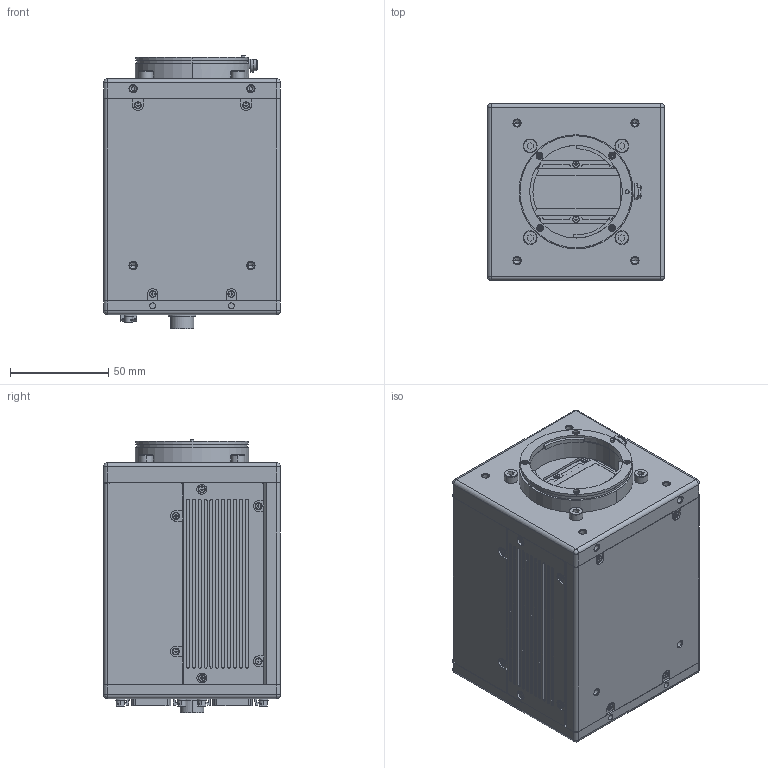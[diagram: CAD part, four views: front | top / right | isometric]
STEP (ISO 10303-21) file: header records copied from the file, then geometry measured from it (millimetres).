
FILE_DESCRIPTION(('OneSpaceDesigner STEP Export'),'2;1');
FILE_NAME('LQ-200CL.stp','2013-08-09T14:02:31',(''),(''),'OneSpace Designer STEP processor for AP214 (Solid Model)','OneSpace Modeling 15.00A 14-Mar-2007 (C) CoCreate Software GmbH','');
FILE_SCHEMA(('AUTOMOTIVE_DESIGN { 1 0 10303 214 1 1 1 1 }'));
Products named in the file (2): LQ-200CL
Assembly tree (1 placements, depth 2):
  LQ-200CL
    LQ-200CL
Bounding box: 90 x 90 x 139 mm (x, y, z)
Volume: 139970.1 mm3; surface area: 148176.5 mm2
Topology: 1 solids, 31 shells, 2529 faces, 6442 edges, 4173 vertices
Faces by surface type: plane 1398, cylinder 917, cone 138, torus 68, sphere 8
Entity records: 69702 total; most frequent: ORIENTED_EDGE 12792, CARTESIAN_POINT 12026, DIRECTION 10824, EDGE_CURVE 6394, VECTOR 4194, LINE 4194, VERTEX_POINT 4173, AXIS2_PLACEMENT_3D 3315
